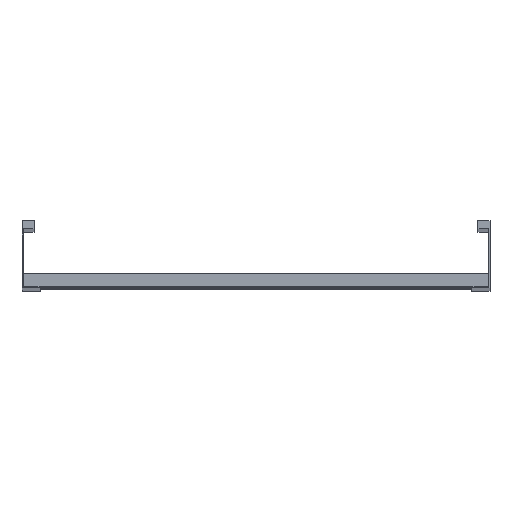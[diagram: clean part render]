
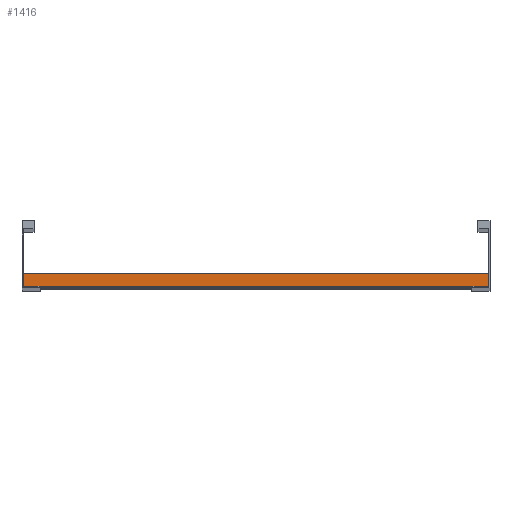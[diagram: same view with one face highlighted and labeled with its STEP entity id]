
A CAD part, top view. The second image highlights one B-rep face of the part: STEP entity #1416.
In plain terms, the highlighted planar face has unit normal (0, 0, 1).
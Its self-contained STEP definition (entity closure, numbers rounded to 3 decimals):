
#8 = CARTESIAN_POINT ( 'NONE',  ( -348., 20., 20.25 ) ) ;
#136 = CARTESIAN_POINT ( 'NONE',  ( 348., 20., 20.25 ) ) ;
#277 = CARTESIAN_POINT ( 'NONE',  ( 348., 0., 20.25 ) ) ;
#341 = VECTOR ( 'NONE', #419, 1000. ) ;
#381 = VECTOR ( 'NONE', #664, 1000. ) ;
#405 = VECTOR ( 'NONE', #944, 1000. ) ;
#419 = DIRECTION ( 'NONE',  ( 0., -1., 0. ) ) ;
#424 = EDGE_CURVE ( 'NONE', #1094, #1407, #857, .T. ) ;
#479 = DIRECTION ( 'NONE',  ( 0., 1., 0. ) ) ;
#517 = VERTEX_POINT ( 'NONE', #742 ) ;
#633 = CARTESIAN_POINT ( 'NONE',  ( 348., 0., 20.25 ) ) ;
#664 = DIRECTION ( 'NONE',  ( -1., 0., 0. ) ) ;
#742 = CARTESIAN_POINT ( 'NONE',  ( -348., 0., 20.25 ) ) ;
#792 = EDGE_CURVE ( 'NONE', #1044, #517, #1084, .T. ) ;
#796 = ORIENTED_EDGE ( 'NONE', *, *, #890, .F. ) ;
#834 = DIRECTION ( 'NONE',  ( -1., 0., 0. ) ) ;
#857 = LINE ( 'NONE', #1105, #1333 ) ;
#865 = EDGE_CURVE ( 'NONE', #1407, #517, #1504, .T. ) ;
#890 = EDGE_CURVE ( 'NONE', #1094, #1044, #1236, .T. ) ;
#896 = DIRECTION ( 'NONE',  ( 0., 0., -1. ) ) ;
#944 = DIRECTION ( 'NONE',  ( 0., -1., 0. ) ) ;
#967 = AXIS2_PLACEMENT_3D ( 'NONE', #1399, #896, #479 ) ;
#990 = CARTESIAN_POINT ( 'NONE',  ( -348., 20., 20.25 ) ) ;
#1044 = VERTEX_POINT ( 'NONE', #633 ) ;
#1084 = LINE ( 'NONE', #277, #381 ) ;
#1094 = VERTEX_POINT ( 'NONE', #1569 ) ;
#1105 = CARTESIAN_POINT ( 'NONE',  ( 348., 20., 20.25 ) ) ;
#1236 = LINE ( 'NONE', #136, #405 ) ;
#1240 = ORIENTED_EDGE ( 'NONE', *, *, #424, .T. ) ;
#1287 = ORIENTED_EDGE ( 'NONE', *, *, #792, .F. ) ;
#1333 = VECTOR ( 'NONE', #834, 1000. ) ;
#1398 = ORIENTED_EDGE ( 'NONE', *, *, #865, .T. ) ;
#1399 = CARTESIAN_POINT ( 'NONE',  ( 348., 20., 20.25 ) ) ;
#1407 = VERTEX_POINT ( 'NONE', #990 ) ;
#1416 = ADVANCED_FACE ( 'NONE', ( #1420 ), #1643, .F. ) ;
#1420 = FACE_OUTER_BOUND ( 'NONE', #1448, .T. ) ;
#1448 = EDGE_LOOP ( 'NONE', ( #1398, #1287, #796, #1240 ) ) ;
#1504 = LINE ( 'NONE', #8, #341 ) ;
#1569 = CARTESIAN_POINT ( 'NONE',  ( 348., 20., 20.25 ) ) ;
#1643 = PLANE ( 'NONE',  #967 ) ;
